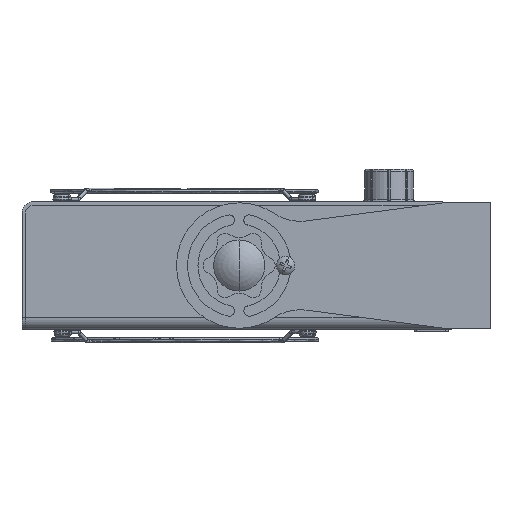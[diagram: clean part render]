
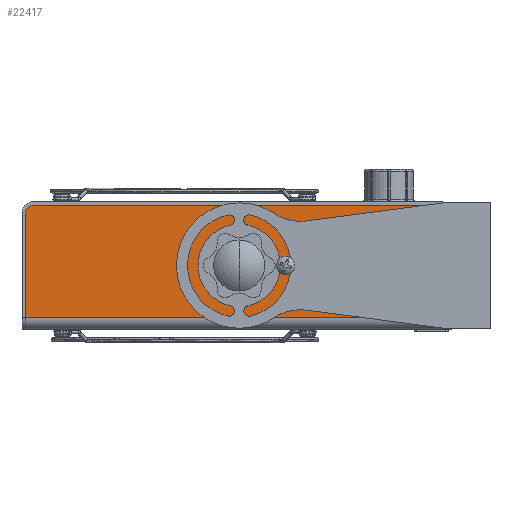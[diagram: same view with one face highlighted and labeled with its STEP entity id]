
A CAD part, left-side view. The second image highlights one B-rep face of the part: STEP entity #22417.
In plain terms, the highlighted planar face has unit normal (-1, 0, 0) as drawn and (0, 1, 0) by its records, which use the part's own axes.
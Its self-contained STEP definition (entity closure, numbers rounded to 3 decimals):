
#22 = DIRECTION ( 'NONE',  ( 0., 0., -1. ) ) ;
#330 = ORIENTED_EDGE ( 'NONE', *, *, #11159, .F. ) ;
#918 = CARTESIAN_POINT ( 'NONE',  ( -17.994, 62.301, 90. ) ) ;
#1310 = CARTESIAN_POINT ( 'NONE',  ( -17.994, 62.301, 73.5 ) ) ;
#1822 = CARTESIAN_POINT ( 'NONE',  ( 4.506, 62.301, 182. ) ) ;
#1955 = DIRECTION ( 'NONE',  ( 0., 0., -1. ) ) ;
#2229 = CARTESIAN_POINT ( 'NONE',  ( 4.506, 62.301, 182. ) ) ;
#2772 = LINE ( 'NONE', #27577, #11332 ) ;
#3351 = DIRECTION ( 'NONE',  ( -1., 0., 0. ) ) ;
#3395 = ORIENTED_EDGE ( 'NONE', *, *, #22757, .T. ) ;
#3745 = ORIENTED_EDGE ( 'NONE', *, *, #23111, .F. ) ;
#4241 = CARTESIAN_POINT ( 'NONE',  ( -40.494, 62.301, 178.5 ) ) ;
#4369 = FACE_BOUND ( 'NONE', #5036, .T. ) ;
#4807 = FACE_BOUND ( 'NONE', #26005, .T. ) ;
#5036 = EDGE_LOOP ( 'NONE', ( #330, #15176 ) ) ;
#5115 = EDGE_CURVE ( 'NONE', #12920, #15128, #14800, .T. ) ;
#7403 = DIRECTION ( 'NONE',  ( 0., 0., -1. ) ) ;
#7844 = AXIS2_PLACEMENT_3D ( 'NONE', #18476, #27525, #13287 ) ;
#8005 = CARTESIAN_POINT ( 'NONE',  ( -43.994, 62.301, 3.5 ) ) ;
#8507 = VERTEX_POINT ( 'NONE', #9567 ) ;
#8804 = DIRECTION ( 'NONE',  ( 0., 0., -1. ) ) ;
#9299 = CIRCLE ( 'NONE', #28727, 10. ) ;
#9493 = DIRECTION ( 'NONE',  ( 0., 1., 0. ) ) ;
#9567 = CARTESIAN_POINT ( 'NONE',  ( -17.994, 62.301, 80. ) ) ;
#9630 = CARTESIAN_POINT ( 'NONE',  ( -17.994, 62.301, 90. ) ) ;
#9696 = EDGE_CURVE ( 'NONE', #12819, #29375, #2772, .T. ) ;
#10469 = VERTEX_POINT ( 'NONE', #17301 ) ;
#10961 = EDGE_CURVE ( 'NONE', #19047, #10469, #13722, .T. ) ;
#11062 = DIRECTION ( 'NONE',  ( 0., 0., -1. ) ) ;
#11159 = EDGE_CURVE ( 'NONE', #26751, #14151, #13679, .T. ) ;
#11332 = VECTOR ( 'NONE', #7403, 1000. ) ;
#11577 = CIRCLE ( 'NONE', #16787, 3.5 ) ;
#11636 = PLANE ( 'NONE',  #7844 ) ;
#12632 = VECTOR ( 'NONE', #3351, 1000. ) ;
#12704 = ORIENTED_EDGE ( 'NONE', *, *, #9696, .F. ) ;
#12819 = VERTEX_POINT ( 'NONE', #16834 ) ;
#12920 = VERTEX_POINT ( 'NONE', #1822 ) ;
#13217 = VECTOR ( 'NONE', #20989, 1000. ) ;
#13287 = DIRECTION ( 'NONE',  ( 0., 0., -1. ) ) ;
#13302 = DIRECTION ( 'NONE',  ( 0., 1., 0. ) ) ;
#13679 = CIRCLE ( 'NONE', #26933, 3.5 ) ;
#13722 = LINE ( 'NONE', #23339, #13217 ) ;
#13905 = EDGE_CURVE ( 'NONE', #23055, #8507, #17940, .T. ) ;
#14151 = VERTEX_POINT ( 'NONE', #1310 ) ;
#14800 = LINE ( 'NONE', #23838, #12632 ) ;
#14825 = CARTESIAN_POINT ( 'NONE',  ( -17.994, 62.301, 70. ) ) ;
#14852 = EDGE_LOOP ( 'NONE', ( #24152, #3395, #12704, #14995, #14858, #25423 ) ) ;
#14858 = ORIENTED_EDGE ( 'NONE', *, *, #5115, .F. ) ;
#14952 = EDGE_CURVE ( 'NONE', #12920, #19047, #19764, .T. ) ;
#14995 = ORIENTED_EDGE ( 'NONE', *, *, #28929, .T. ) ;
#15128 = VERTEX_POINT ( 'NONE', #25227 ) ;
#15176 = ORIENTED_EDGE ( 'NONE', *, *, #17480, .F. ) ;
#15450 = AXIS2_PLACEMENT_3D ( 'NONE', #17698, #16061, #8804 ) ;
#16061 = DIRECTION ( 'NONE',  ( 0., 1., 0. ) ) ;
#16095 = FACE_OUTER_BOUND ( 'NONE', #14852, .T. ) ;
#16787 = AXIS2_PLACEMENT_3D ( 'NONE', #4241, #13302, #11062 ) ;
#16834 = CARTESIAN_POINT ( 'NONE',  ( -43.994, 62.301, 178.5 ) ) ;
#17301 = CARTESIAN_POINT ( 'NONE',  ( -40.494, 62.301, 0. ) ) ;
#17480 = EDGE_CURVE ( 'NONE', #14151, #26751, #25660, .T. ) ;
#17698 = CARTESIAN_POINT ( 'NONE',  ( -40.494, 62.301, 3.5 ) ) ;
#17940 = CIRCLE ( 'NONE', #25521, 10. ) ;
#18476 = CARTESIAN_POINT ( 'NONE',  ( -43.994, 62.301, 182. ) ) ;
#18535 = DIRECTION ( 'NONE',  ( 0., 1., 0. ) ) ;
#19018 = DIRECTION ( 'NONE',  ( 0., 1., 0. ) ) ;
#19047 = VERTEX_POINT ( 'NONE', #21301 ) ;
#19447 = ORIENTED_EDGE ( 'NONE', *, *, #13905, .F. ) ;
#19764 = LINE ( 'NONE', #2229, #26528 ) ;
#20915 = DIRECTION ( 'NONE',  ( 0., 0., -1. ) ) ;
#20989 = DIRECTION ( 'NONE',  ( -1., 0., 0. ) ) ;
#21301 = CARTESIAN_POINT ( 'NONE',  ( 4.506, 62.301, 0. ) ) ;
#21610 = CIRCLE ( 'NONE', #15450, 3.5 ) ;
#22306 = CARTESIAN_POINT ( 'NONE',  ( -17.994, 62.301, 66.5 ) ) ;
#22417 = ADVANCED_FACE ( 'NONE', ( #4369, #4807, #16095 ), #11636, .F. ) ;
#22757 = EDGE_CURVE ( 'NONE', #10469, #29375, #21610, .T. ) ;
#23055 = VERTEX_POINT ( 'NONE', #27170 ) ;
#23111 = EDGE_CURVE ( 'NONE', #8507, #23055, #9299, .T. ) ;
#23339 = CARTESIAN_POINT ( 'NONE',  ( -43.994, 62.301, 0. ) ) ;
#23751 = AXIS2_PLACEMENT_3D ( 'NONE', #14825, #26381, #26242 ) ;
#23838 = CARTESIAN_POINT ( 'NONE',  ( -43.994, 62.301, 182. ) ) ;
#24152 = ORIENTED_EDGE ( 'NONE', *, *, #10961, .T. ) ;
#25227 = CARTESIAN_POINT ( 'NONE',  ( -40.494, 62.301, 182. ) ) ;
#25423 = ORIENTED_EDGE ( 'NONE', *, *, #14952, .T. ) ;
#25521 = AXIS2_PLACEMENT_3D ( 'NONE', #918, #19018, #28080 ) ;
#25660 = CIRCLE ( 'NONE', #23751, 3.5 ) ;
#26005 = EDGE_LOOP ( 'NONE', ( #3745, #19447 ) ) ;
#26242 = DIRECTION ( 'NONE',  ( 0., 0., -1. ) ) ;
#26381 = DIRECTION ( 'NONE',  ( 0., 1., 0. ) ) ;
#26528 = VECTOR ( 'NONE', #22, 1000. ) ;
#26751 = VERTEX_POINT ( 'NONE', #22306 ) ;
#26933 = AXIS2_PLACEMENT_3D ( 'NONE', #27585, #18535, #1955 ) ;
#27170 = CARTESIAN_POINT ( 'NONE',  ( -17.994, 62.301, 100. ) ) ;
#27525 = DIRECTION ( 'NONE',  ( 0., -1., 0. ) ) ;
#27577 = CARTESIAN_POINT ( 'NONE',  ( -43.994, 62.301, 182. ) ) ;
#27585 = CARTESIAN_POINT ( 'NONE',  ( -17.994, 62.301, 70. ) ) ;
#28080 = DIRECTION ( 'NONE',  ( 0., 0., -1. ) ) ;
#28727 = AXIS2_PLACEMENT_3D ( 'NONE', #9630, #9493, #20915 ) ;
#28929 = EDGE_CURVE ( 'NONE', #12819, #15128, #11577, .T. ) ;
#29375 = VERTEX_POINT ( 'NONE', #8005 ) ;
